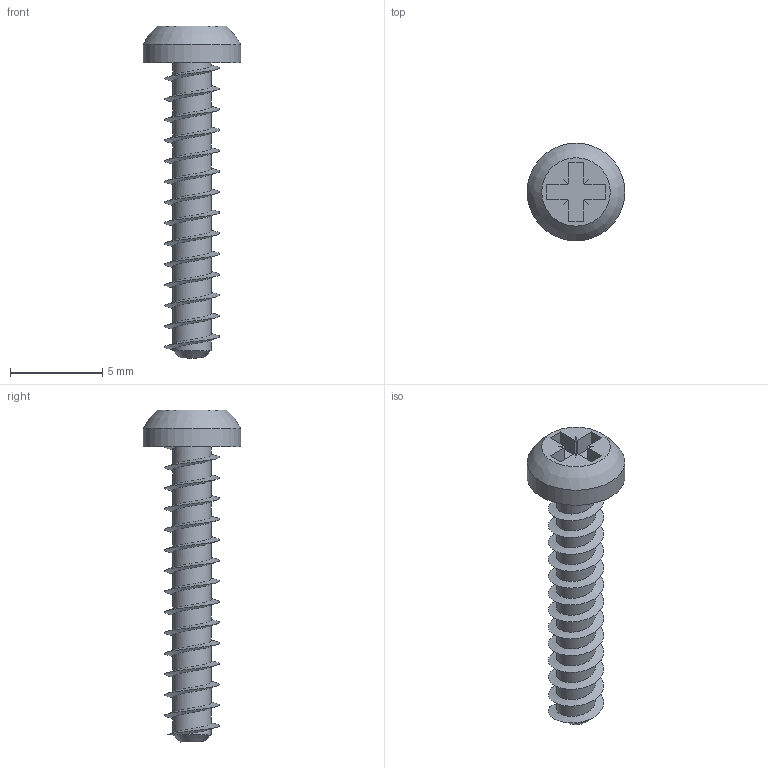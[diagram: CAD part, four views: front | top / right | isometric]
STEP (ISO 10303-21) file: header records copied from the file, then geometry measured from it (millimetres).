
FILE_DESCRIPTION(/* description */ (''),/* implementation_level */ '2;1');
FILE_NAME(/* name */ 'Pan Head Polyfix Plastic Self Tapping Screw - 3mm - 16mm.step',/* time_stamp */ '2025-08-27T20:31:20+03:00',/* author */ (''),/* organization */ (''),/* preprocessor_version */ 'ST-DEVELOPER v20.1',/* originating_system */ 'Autodesk Translation Framework v14.10.0.0',/* authorisation */ '');
FILE_SCHEMA (('AUTOMOTIVE_DESIGN { 1 0 10303 214 3 1 1 }'));
Length unit declared in the file: millimetre
Products named in the file (1): SPP45 BASE
Bounding box: 5.3 x 5.3 x 18 mm (x, y, z)
Volume: 94.6 mm3; surface area: 267.7 mm2
Topology: 1 solids, 1 shells, 58 faces, 172 edges, 118 vertices
Faces by surface type: plane 37, cylinder 17, bspline 2, sphere 1, cone 1
Full cylindrical faces by diameter (mm): 2.09 x14, 5.3 x1
Entity records: 9053 total; most frequent: CARTESIAN_POINT 7528, ORIENTED_EDGE 344, DIRECTION 255, EDGE_CURVE 172, VERTEX_POINT 118, LINE 113, VECTOR 113, AXIS2_PLACEMENT_3D 71
